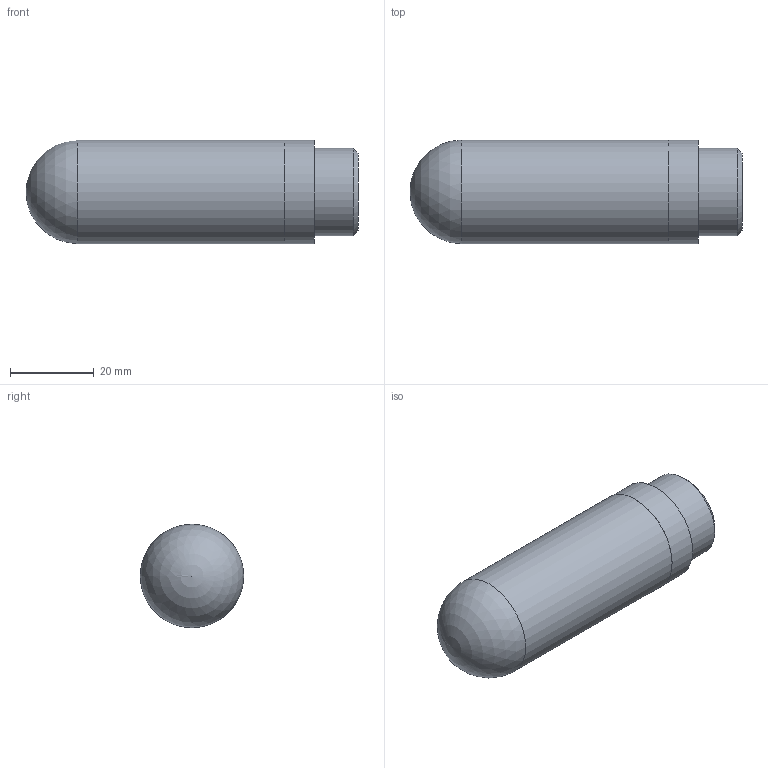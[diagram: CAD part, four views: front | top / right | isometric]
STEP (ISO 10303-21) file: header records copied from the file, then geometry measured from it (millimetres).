
FILE_DESCRIPTION(/* description */ ('STEP AP203'),/* implementation_level */ '2;1');
FILE_NAME(/* name */ '2928 1_2',/* time_stamp */ '2023-04-06T15:04:22+02:00',/* author */ ('License CC BY-ND 4.0'),/* organization */ ('CADENAS'),/* preprocessor_version */ 'ST-DEVELOPER v19.3',/* originating_system */ 'PARTsolutions',/* authorisation */ ' ');
FILE_SCHEMA (('CONFIG_CONTROL_DESIGN'));
Length unit declared in the file: millimetre
Products named in the file (1): 2928 1/2
Bounding box: 79.5 x 24.8 x 24.8 mm (x, y, z)
Volume: 34885.1 mm3; surface area: 6501.4 mm2
Topology: 1 solids, 1 shells, 8 faces, 13 edges, 8 vertices
Faces by surface type: cylinder 3, plane 3, sphere 1, cone 1
Full cylindrical faces by diameter (mm): 20.955 x1, 24.7 x1, 24.8 x1
Entity records: 184 total; most frequent: DIRECTION 32, CARTESIAN_POINT 23, AXIS2_PLACEMENT_3D 16, ORIENTED_EDGE 14, EDGE_LOOP 14, FACE_BOUND 14, ADVANCED_FACE 8, EDGE_CURVE 7
